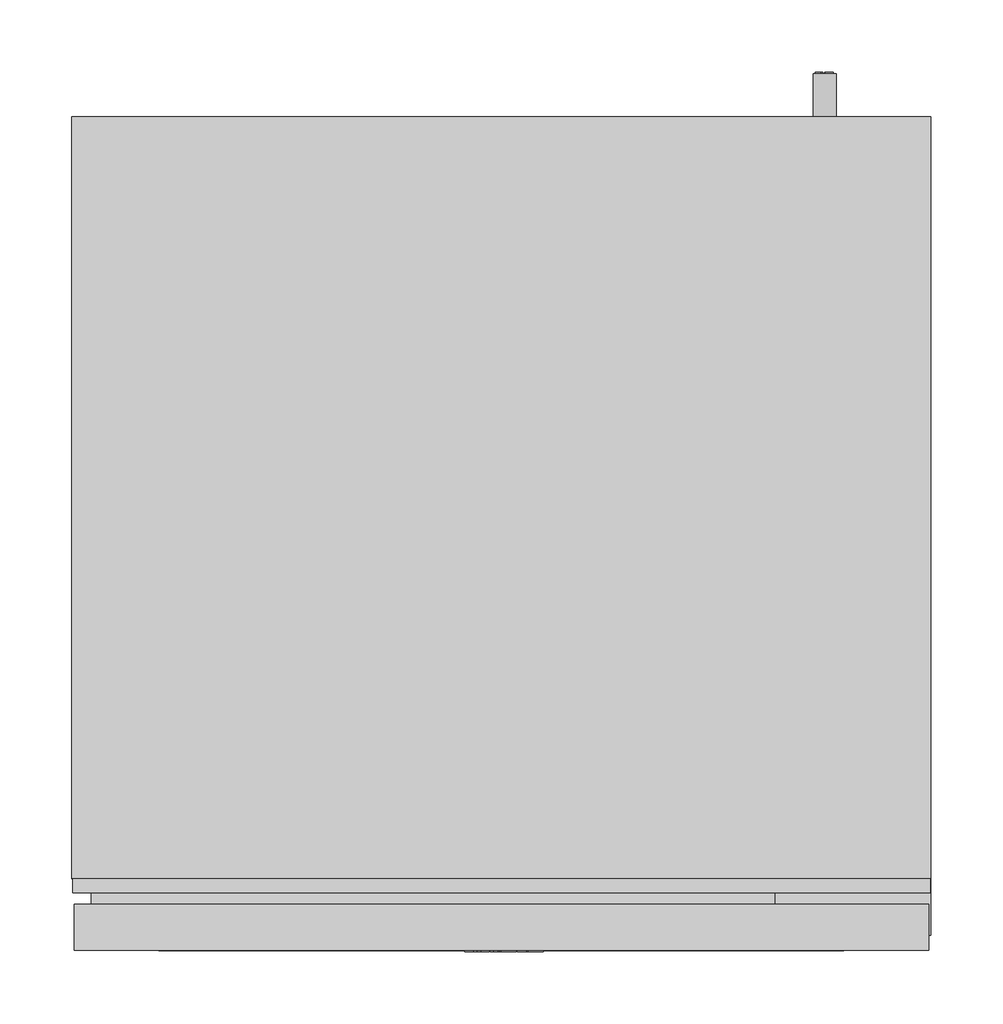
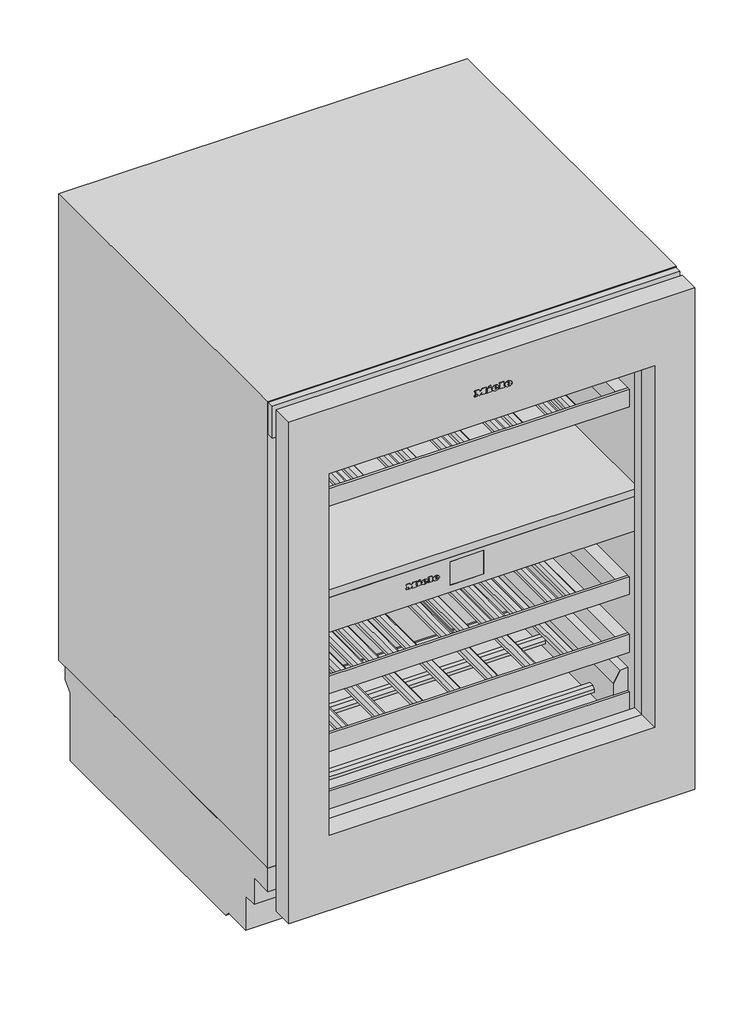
# Not in any storey: 1 proxy.
"""IFC4 building model written with IfcOpenShell, lengths in millimetres."""

from ifc_helpers import new_model, si_unit, origin, place, context, project, spatial, transform, mapped, element, save
from components import specialty_equipment_9c25adbb

model = new_model("IFC4")

# Units and contexts
model_context = context("Model", 3, world=origin())
ifc_project = project(units=[si_unit("LENGTHUNIT", "METRE", prefix="MILLI")], contexts=[model_context])

# Site, building
site = spatial("IfcSite", under=ifc_project)
building = spatial("IfcBuilding", under=site)

# Proxy
placement = place(None, origin())
specialty_equipment_shape = specialty_equipment_9c25adbb(model_context)
element("IfcBuildingElementProxy", 1, Name="12519660_EU1_KWTUS7196E_OBSW : 39719610_EU1_12519660_KWTUS7196E_OBSW", ObjectType="12519660_EU1_KWTUS7196E_OBSW : 39719610_EU1_12519660_KWTUS7196E_OBSW", at=placement, inside=building, context=model_context, shape_type="MappedRepresentation", body=[
    mapped(specialty_equipment_shape, transform((0.0, 0.0, 0.0), x_axis=(1.0, 0.0, 0.0), y_axis=(0.0, 1.0, 0.0), z_axis=(0.0, 0.0, 1.0))),
])

save(model, "model.ifc")
